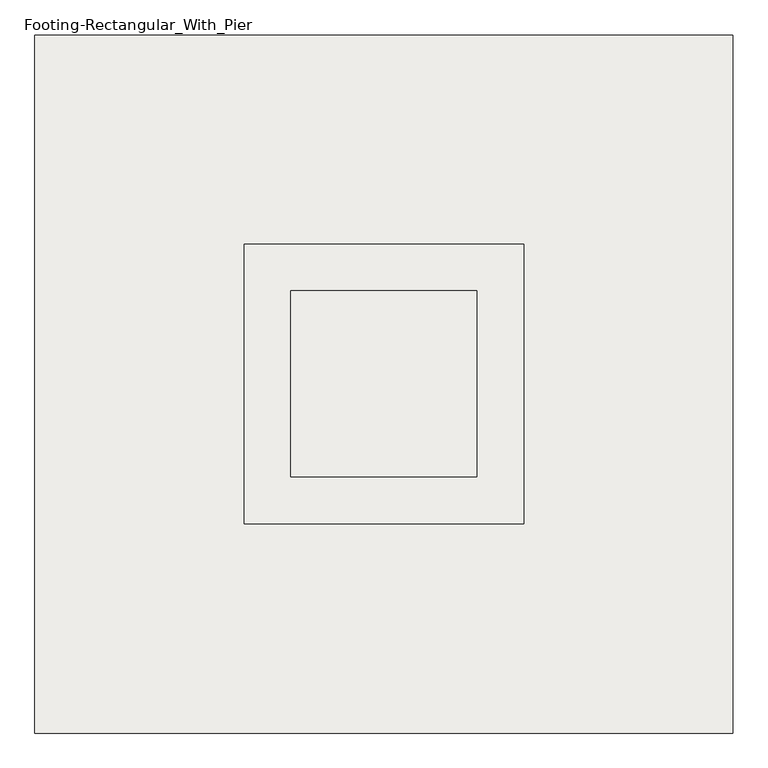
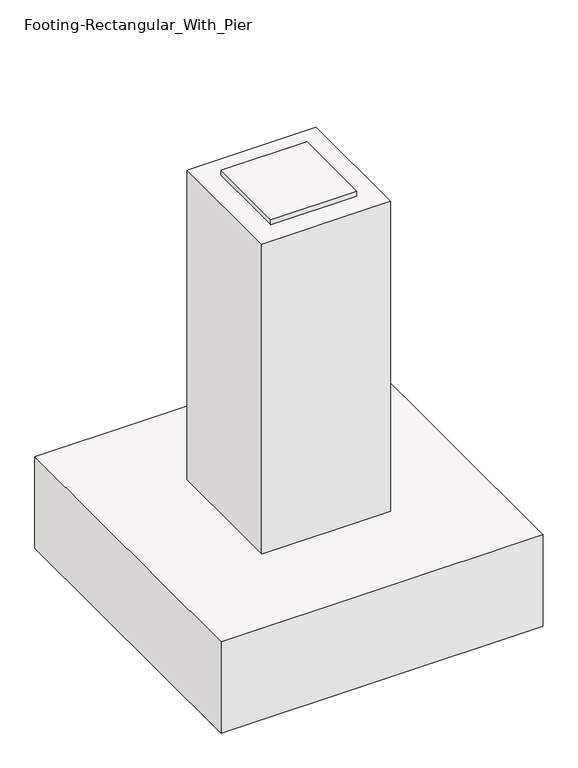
"""IFC4 building model written with IfcOpenShell, lengths in millimetres: slab geometry."""

from ifc_helpers import new_model, si_unit, frame, origin, origin_with_axes, place, context, project, spatial, polyline, outline, extrude, source, transform, mapped, element, save


def footing_rectangular_with_pier_95157401(model_context):
    return source(origin(), model_context, "Body", "SweptSolid", [
        extrude(outline(polyline([(203.2, 203.2), (203.2, -203.2), (-203.2, -203.2), (-203.2, 203.2), (203.2, 203.2)])), frame((0.0, 0.0, 1549.4), z_axis=(0.0, 0.0, 1.0), x_axis=(1.0, 0.0, 0.0)), (0.0, 0.0, 1.0), 25.4),
        extrude(outline(polyline([(762.0, 762.0), (762.0, -762.0), (-762.0, -762.0), (-762.0, 762.0), (762.0, 762.0)])), frame((0.0, 0.0, -457.2), z_axis=(0.0, 0.0, 1.0), x_axis=(1.0, 0.0, 0.0)), (0.0, 0.0, 1.0), 457.2),
        extrude(outline(polyline([(304.8, 304.8), (304.8, -304.8), (-304.8, -304.8), (-304.8, 304.8), (304.8, 304.8)])), origin_with_axes(), (0.0, 0.0, 1.0), 1549.4),
    ])


if __name__ == "__main__":
    model = new_model("IFC4")
    model_context = context("Model", 3, world=origin())
    ifc_project = project(units=[si_unit("LENGTHUNIT", "METRE", prefix="MILLI")], contexts=[model_context])
    site = spatial("IfcSite", under=ifc_project)
    building = spatial("IfcBuilding", under=site)
    placement = place(None, origin())
    footing_rectangular_with_pier_shape = footing_rectangular_with_pier_95157401(model_context)
    element("IfcSlab", 1, ObjectType="Footing-Rectangular_With_Pier : F8 - 5'-0\" x 5'-0\" x 1'-6\"", at=placement, inside=building, context=model_context, shape_type="MappedRepresentation", body=[
        mapped(footing_rectangular_with_pier_shape, transform((0.0, 0.0, 0.0), x_axis=(1.0, 0.0, 0.0), y_axis=(0.0, 1.0, 0.0), z_axis=(0.0, 0.0, 1.0))),
    ])
    save(model, "model.ifc")
